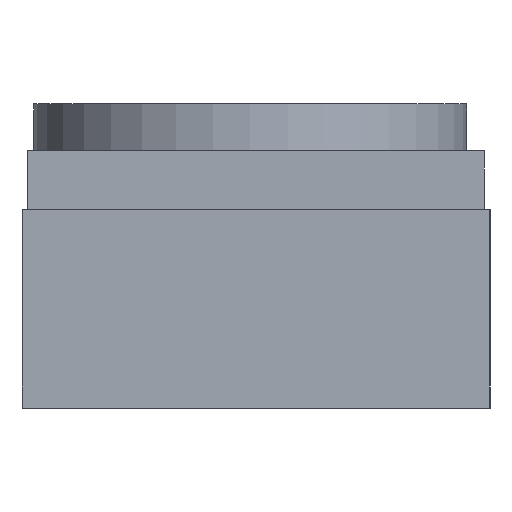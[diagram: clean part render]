
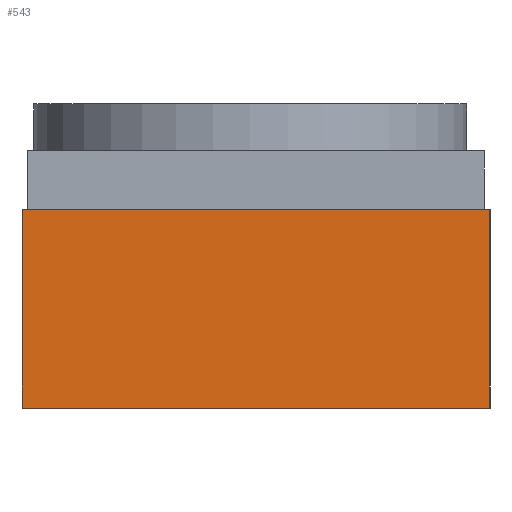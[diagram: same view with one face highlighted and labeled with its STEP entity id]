
A CAD part, left-side view. The second image highlights one B-rep face of the part: STEP entity #543.
In plain terms, the highlighted planar face has unit normal (-1, 0, 0).
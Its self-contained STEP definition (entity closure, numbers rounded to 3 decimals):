
#60=PLANE('',#604);
#93=FACE_OUTER_BOUND('',#129,.T.);
#129=EDGE_LOOP('',(#487,#488,#489,#490));
#180=LINE('',#1169,#236);
#181=LINE('',#1171,#237);
#182=LINE('',#1173,#238);
#183=LINE('',#1174,#239);
#236=VECTOR('',#740,10.);
#237=VECTOR('',#741,10.);
#238=VECTOR('',#742,10.);
#239=VECTOR('',#743,10.);
#288=VERTEX_POINT('',#1167);
#289=VERTEX_POINT('',#1168);
#290=VERTEX_POINT('',#1170);
#291=VERTEX_POINT('',#1172);
#357=EDGE_CURVE('',#288,#289,#180,.T.);
#358=EDGE_CURVE('',#288,#290,#181,.T.);
#359=EDGE_CURVE('',#291,#290,#182,.T.);
#360=EDGE_CURVE('',#289,#291,#183,.T.);
#487=ORIENTED_EDGE('',*,*,#357,.F.);
#488=ORIENTED_EDGE('',*,*,#358,.T.);
#489=ORIENTED_EDGE('',*,*,#359,.F.);
#490=ORIENTED_EDGE('',*,*,#360,.F.);
#543=ADVANCED_FACE('',(#93),#60,.T.);
#604=AXIS2_PLACEMENT_3D('',#1166,#738,#739);
#738=DIRECTION('center_axis',(-1.,0.,0.));
#739=DIRECTION('ref_axis',(0.,-1.,0.));
#740=DIRECTION('',(0.,1.,0.));
#741=DIRECTION('',(0.,0.,1.));
#742=DIRECTION('',(0.,-1.,0.));
#743=DIRECTION('',(0.,0.,1.));
#1166=CARTESIAN_POINT('Origin',(-40.,40.,0.));
#1167=CARTESIAN_POINT('',(-40.,-40.,0.));
#1168=CARTESIAN_POINT('',(-40.,40.,0.));
#1169=CARTESIAN_POINT('',(-40.,-40.,0.));
#1170=CARTESIAN_POINT('',(-40.,-40.,34.));
#1171=CARTESIAN_POINT('',(-40.,-40.,0.));
#1172=CARTESIAN_POINT('',(-40.,40.,34.));
#1173=CARTESIAN_POINT('',(-40.,-40.,34.));
#1174=CARTESIAN_POINT('',(-40.,40.,0.));
